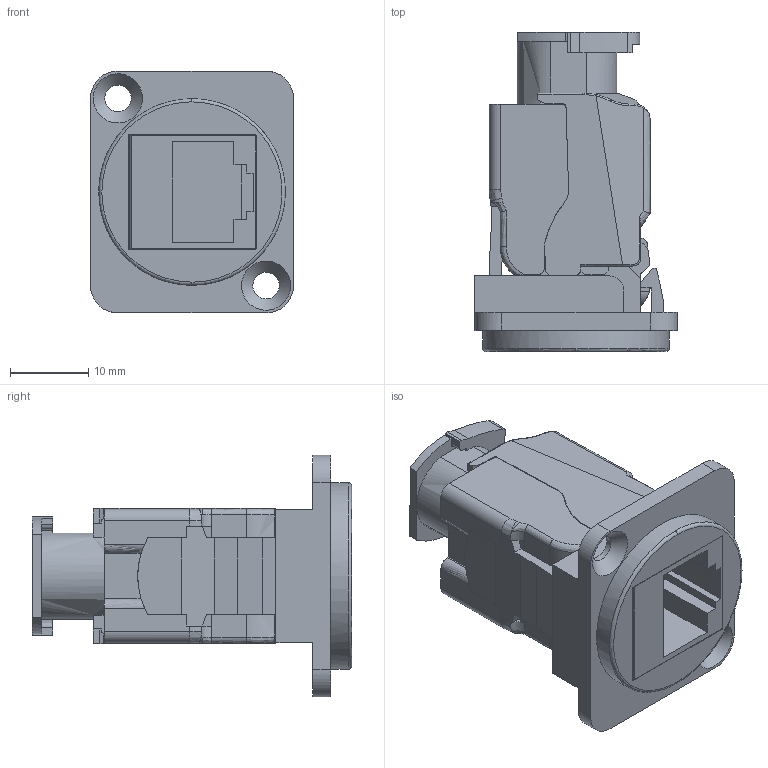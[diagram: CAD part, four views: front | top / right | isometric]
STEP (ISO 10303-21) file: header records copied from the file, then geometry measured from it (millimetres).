
FILE_DESCRIPTION(('FreeCAD Model'),'2;1');
FILE_NAME('Open CASCADE Shape Model','2026-05-14T11:23:03',(''),(''), 'Open CASCADE STEP processor 7.8','FreeCAD','Unknown');
FILE_SCHEMA(('AUTOMOTIVE_DESIGN { 1 0 10303 214 1 1 1 1 }'));
Length unit declared in the file: millimetre
Products named in the file (3): PMNST_C6ASKTH_BK; 3013BUSXLRBK; 3013ALKVAS6A
Assembly tree (2 placements, depth 2):
  PMNST_C6ASKTH_BK
    3013BUSXLRBK
    3013ALKVAS6A
Bounding box: 26 x 40.92 x 31 mm (x, y, z)
Volume: 11284.6 mm3; surface area: 7590.7 mm2
Topology: 5 solids, 5 shells, 401 faces, 3079 edges, 8510 vertices
Faces by surface type: bspline 401
Entity records: 54227 total; most frequent: CARTESIAN_POINT 35880, B_SPLINE_CURVE_WITH_KNOTS 3077, ORIENTED_EDGE 2266, GEOMETRIC_CURVE_SET 1945, TRIMMED_CURVE 1942, EDGE_CURVE 1133, VERTEX_POINT 736, STYLED_ITEM 633
